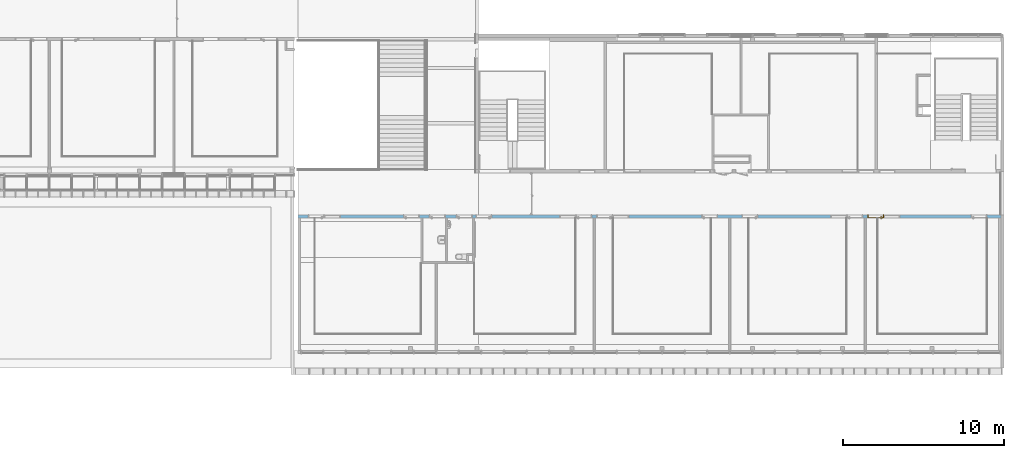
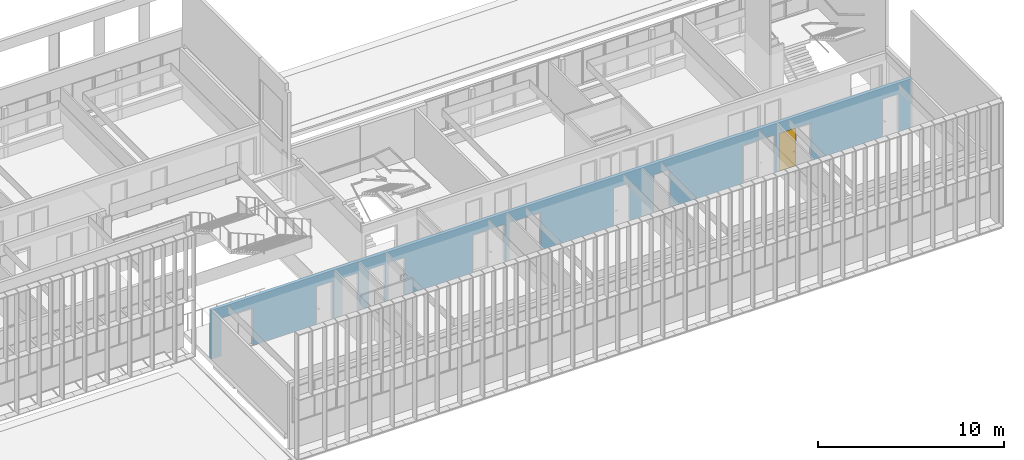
# One storey, part 67 of 106: 1 door, 18 openings, plus 1 element that does not belong to this part.
"""IFC2X3 building model written with IfcOpenShell, lengths in centimetres."""

from ifc_helpers import new_model, entity, si_unit, converted_unit, derived_unit, direction, frame, frame_2d, origin, place, context, subcontext, project, spatial, polyline, rectangle, extrude, clip, bounded_halfspace, faceted_brep, source, transform, mapped, material, material_list, layer, layer_set, layer_usage, type_object, type_shapes, element, fill, save


model = new_model("IFC2X3")

# Units and contexts
model_context = context("Model", 3, precision=0.001, world=origin(), true_north=direction((6.12303176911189e-17, 1.0)))
body_context = subcontext(model_context, "Body", "Model", "MODEL_VIEW")
ifc_project = project(units=[si_unit("LENGTHUNIT", "METRE", prefix="CENTI"), si_unit("AREAUNIT", "SQUARE_METRE"), si_unit("VOLUMEUNIT", "CUBIC_METRE"), converted_unit("PLANEANGLEUNIT", "DEGREE", entity("IfcRatioMeasure", 0.0174532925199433), si_unit("PLANEANGLEUNIT", "RADIAN"), dimensions=[0, 0, 0, 0, 0, 0, 0]), si_unit("MASSUNIT", "GRAM", prefix="KILO"), derived_unit("MASSDENSITYUNIT", [(si_unit("MASSUNIT", "GRAM", prefix="KILO"), 1), (si_unit("LENGTHUNIT", "METRE"), -3)]), si_unit("TIMEUNIT", "SECOND"), si_unit("FREQUENCYUNIT", "HERTZ"), si_unit("THERMODYNAMICTEMPERATUREUNIT", "DEGREE_CELSIUS"), derived_unit("THERMALTRANSMITTANCEUNIT", [(si_unit("MASSUNIT", "GRAM", prefix="KILO"), 1), (si_unit("THERMODYNAMICTEMPERATUREUNIT", "KELVIN"), -1), (si_unit("TIMEUNIT", "SECOND"), -3)]), derived_unit("VOLUMETRICFLOWRATEUNIT", [(si_unit("LENGTHUNIT", "METRE"), 3), (si_unit("TIMEUNIT", "SECOND"), -1)]), si_unit("ELECTRICCURRENTUNIT", "AMPERE"), si_unit("ELECTRICVOLTAGEUNIT", "VOLT"), si_unit("POWERUNIT", "WATT"), si_unit("FORCEUNIT", "NEWTON", prefix="KILO"), si_unit("ILLUMINANCEUNIT", "LUX"), si_unit("LUMINOUSFLUXUNIT", "LUMEN"), si_unit("LUMINOUSINTENSITYUNIT", "CANDELA"), derived_unit("USERDEFINED", [(si_unit("MASSUNIT", "GRAM", prefix="KILO"), -1), (si_unit("LENGTHUNIT", "METRE"), -2), (si_unit("TIMEUNIT", "SECOND"), 3), (si_unit("LUMINOUSFLUXUNIT", "LUMEN"), 1)]), derived_unit("LINEARVELOCITYUNIT", [(si_unit("LENGTHUNIT", "METRE"), 1), (si_unit("TIMEUNIT", "SECOND"), -1)]), si_unit("PRESSUREUNIT", "PASCAL"), derived_unit("USERDEFINED", [(si_unit("LENGTHUNIT", "METRE"), -2), (si_unit("MASSUNIT", "GRAM", prefix="KILO"), 1), (si_unit("TIMEUNIT", "SECOND"), -2)])], contexts=[model_context])

# Site, building, storey
site_placement = place(None, frame((-2781.94577612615, 7442.24238424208, 0.0)))
site = spatial("IfcSite", under=ifc_project, at=site_placement, Name="Default", CompositionType="ELEMENT")
building_placement = place(site_placement, origin())
building = spatial("IfcBuilding", under=site, at=building_placement, CompositionType="ELEMENT")
storey_placement = place(building_placement, frame((0.0, 0.0, 422.0)))
storey = spatial("IfcBuildingStorey", under=building, at=storey_placement, Name="Toiture - Cuisine", CompositionType="ELEMENT", Elevation=421.999999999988)

# Wall, openings, door
ifc_material_1 = material(Name="01 - Maçonnerie")
ifc_layer = layer(ifc_material_1, 20.0)
ifc_layer_set = layer_set([ifc_layer], Name="Mur de base:04 - Structure - béton - 20cm")
ifc_layer_usage = layer_usage(ifc_layer_set, "AXIS2", "NEGATIVE", 10.0)
wall_type = type_object("IfcWallType", Name="Mur de base:04 - Structure - béton - 20cm", PredefinedType="STANDARD", material=ifc_layer_set)
wall_placement = place(building_placement, frame((-4767.99987760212, -2200.15656731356, 422.0)))
wall = element("IfcWallStandardCase", 1, at=wall_placement, inside=storey, type_object=wall_type, material=ifc_layer_usage, Name="Mur de base:04 - Structure - béton - 20cm", ObjectType="Mur de base:04 - Structure - béton - 20cm", context=body_context, shape_type="Clipping", body=[
    clip(extrude(rectangle(XDim=4357.99999476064, YDim=19.9999999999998, at=frame_2d((2178.99999738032, -6.30606677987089e-14), x_axis=(-1.0, 0.0))), origin(), (0.0, 0.0, 1.0), 321.0), bounded_halfspace(frame((0.0, 10.0, 321.0), z_axis=(0.0, 0.0, -1.0), x_axis=(0.0, 1.0, 0.0)), True, frame((0.0, 10.0, 321.0)), polyline([(0.0, 0.0), (0.0, -20.0), (15.2999999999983, -20.0), (103.799999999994, -20.0), (105.799999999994, -20.0), (763.799999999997, -20.0), (773.799999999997, -20.0), (915.699994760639, -20.0), (925.699994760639, -20.0), (1082.69999476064, -20.0), (1092.69999476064, -20.0), (1720.69999476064, -20.0), (1722.69999476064, -20.0), (1832.69999476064, -20.0), (1842.69999476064, -20.0), (1952.69999476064, -20.0), (1954.69999476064, -20.0), (2560.69999476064, -20.0), (2562.69999476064, -20.0), (2672.69999476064, -20.0), (2682.69999476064, -20.0), (2792.69999476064, -20.0), (2794.69999476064, -20.0), (3400.69999476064, -20.0), (3402.69999476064, -20.0), (3512.69999476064, -20.0), (3522.69999476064, -20.0), (3592.69999476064, -20.0), (3594.69999476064, -20.0), (4270.69999476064, -20.0), (4272.69999476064, -20.0), (4342.69999476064, -20.0), (4358.0, -20.0), (4358.0, 0.0), (4356.0, 0.0), (1451.49999791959, 0.0), (1441.49999791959, 0.0), (1120.0, 0.0), (0.0, 0.0)]))),
])
opening_1_placement = place(wall_placement, origin())
element("IfcOpeningElement", 2, at=opening_1_placement, cuts=wall, Name="Mur de base:04 - Structure - béton - 20cm", ObjectType="Opening", context=body_context, shape_type="SweptSolid", body=[
    extrude(rectangle(XDim=270.0, YDim=20.0, at=frame_2d((0.0, 4.2632564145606e-14), x_axis=(0.0, 1.0))), frame((4368.0, 10.0, 135.0), z_axis=(0.0, 1.0, 0.0), x_axis=(1.0, 0.0, 0.0)), (0.0, 0.0, 1.0), 260.077533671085),
])
opening_2_placement = place(wall_placement, frame((4272.69999476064, 10.0, 0.0)))
element("IfcOpeningElement", 3, at=opening_2_placement, cuts=wall, Name="Int. Simple:PV (0.93m x 2.50m):1", ObjectType="Opening", context=body_context, shape_type="SweptSolid", body=[
    extrude(rectangle(XDim=248.500000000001, YDim=99.9999999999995, at=frame_2d((124.250000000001, 50.0), x_axis=(1.0, 0.0))), frame((0.0, 0.0, 0.0), z_axis=(0.0, -1.0, 0.0), x_axis=(0.0, 0.0, 1.0)), (0.0, 0.0, 1.0), 20.0),
])
opening_3_placement = place(wall_placement, frame((3632.69999476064, 10.0, 0.0)))
opening_3 = element("IfcOpeningElement", 4, at=opening_3_placement, cuts=wall, Name="Int. Simple:PV (0.93m x 2.50m):1", ObjectType="Opening", context=body_context, shape_type="SweptSolid", body=[
    extrude(rectangle(XDim=248.500000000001, YDim=99.9999999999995, at=frame_2d((124.250000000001, 49.9999999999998), x_axis=(1.0, 0.0))), frame((0.0, 0.0, 0.0), z_axis=(0.0, -1.0, 0.0), x_axis=(0.0, 0.0, 1.0)), (0.0, 0.0, 1.0), 20.0),
])
opening_4_placement = place(wall_placement, frame((3502.69999476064, 10.0, 0.0)))
element("IfcOpeningElement", 5, at=opening_4_placement, cuts=wall, Name="Int. Simple:PV (0.93m x 2.50m):1", ObjectType="Opening", context=body_context, shape_type="SweptSolid", body=[
    extrude(rectangle(XDim=248.500000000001, YDim=99.9999999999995, at=frame_2d((124.250000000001, 49.9999999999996), x_axis=(1.0, 0.0))), frame((0.0, 0.0, 0.0), z_axis=(0.0, -1.0, 0.0), x_axis=(0.0, 0.0, 1.0)), (0.0, 0.0, 1.0), 20.0),
])
opening_5_placement = place(wall_placement, frame((2852.69999476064, 10.0, 0.0)))
element("IfcOpeningElement", 6, at=opening_5_placement, cuts=wall, Name="Int. Simple:PV (0.93m x 2.50m):1", ObjectType="Opening", context=body_context, shape_type="SweptSolid", body=[
    extrude(rectangle(XDim=248.500000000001, YDim=99.9999999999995, at=frame_2d((124.250000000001, 49.9999999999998), x_axis=(1.0, 0.0))), frame((0.0, 0.0, 0.0), z_axis=(0.0, -1.0, 0.0), x_axis=(0.0, 0.0, 1.0)), (0.0, 0.0, 1.0), 20.0),
])
opening_6_placement = place(wall_placement, frame((2602.69999476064, 10.0, 0.0)))
element("IfcOpeningElement", 7, at=opening_6_placement, cuts=wall, Name="Int. Simple:PV (0.93m x 2.50m):1", ObjectType="Opening", context=body_context, shape_type="SweptSolid", body=[
    extrude(rectangle(XDim=248.500000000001, YDim=99.9999999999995, at=frame_2d((124.250000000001, 49.9999999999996), x_axis=(1.0, 0.0))), frame((0.0, 0.0, 0.0), z_axis=(0.0, -1.0, 0.0), x_axis=(0.0, 0.0, 1.0)), (0.0, 0.0, 1.0), 20.0),
])
opening_7_placement = place(wall_placement, frame((1952.69999476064, 10.0, 0.0)))
element("IfcOpeningElement", 8, at=opening_7_placement, cuts=wall, Name="Int. Simple:PV (0.93m x 2.50m):1", ObjectType="Opening", context=body_context, shape_type="SweptSolid", body=[
    extrude(rectangle(XDim=248.500000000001, YDim=99.9999999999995, at=frame_2d((124.250000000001, 49.9999999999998), x_axis=(1.0, 0.0))), frame((0.0, 0.0, 0.0), z_axis=(0.0, -1.0, 0.0), x_axis=(0.0, 0.0, 1.0)), (0.0, 0.0, 1.0), 20.0),
])
opening_8_placement = place(wall_placement, frame((1822.69999476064, 10.0, 0.0)))
element("IfcOpeningElement", 9, at=opening_8_placement, cuts=wall, Name="Int. Simple:PV (0.93m x 2.50m):1", ObjectType="Opening", context=body_context, shape_type="SweptSolid", body=[
    extrude(rectangle(XDim=248.500000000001, YDim=99.9999999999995, at=frame_2d((124.250000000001, 49.9999999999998), x_axis=(1.0, 0.0))), frame((0.0, 0.0, 0.0), z_axis=(0.0, -1.0, 0.0), x_axis=(0.0, 0.0, 1.0)), (0.0, 0.0, 1.0), 20.0),
])
opening_9_placement = place(wall_placement, frame((1202.69999476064, 10.0, 0.0)))
element("IfcOpeningElement", 10, at=opening_9_placement, cuts=wall, Name="Int. Simple:PV (0.93m x 2.50m):1", ObjectType="Opening", context=body_context, shape_type="SweptSolid", body=[
    extrude(rectangle(XDim=248.500000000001, YDim=99.9999999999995, at=frame_2d((124.250000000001, 49.9999999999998), x_axis=(1.0, 0.0))), frame((0.0, 0.0, 0.0), z_axis=(0.0, -1.0, 0.0), x_axis=(0.0, 0.0, 1.0)), (0.0, 0.0, 1.0), 20.0),
])
opening_10_placement = place(wall_placement, frame((1081.19999476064, 10.0, 0.0)))
element("IfcOpeningElement", 11, at=opening_10_placement, cuts=wall, Name="Int. Simple:PP simple (0.93m x 2.50m):1", ObjectType="Opening", context=body_context, shape_type="SweptSolid", body=[
    extrude(rectangle(XDim=248.500000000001, YDim=99.9999999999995, at=frame_2d((124.250000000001, 49.9999999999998), x_axis=(1.0, 0.0))), frame((0.0, 0.0, 0.0), z_axis=(0.0, -1.0, 0.0), x_axis=(0.0, 0.0, 1.0)), (0.0, 0.0, 1.0), 20.0),
])
opening_11_placement = place(wall_placement, frame((753.799999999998, 10.0, 0.0)))
element("IfcOpeningElement", 12, at=opening_11_placement, cuts=wall, Name="Int. Simple:PV (0.93m x 2.50m):1", ObjectType="Opening", context=body_context, shape_type="SweptSolid", body=[
    extrude(rectangle(XDim=248.500000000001, YDim=99.9999999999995, at=frame_2d((124.250000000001, 50.0), x_axis=(1.0, 0.0))), frame((0.0, 0.0, 0.0), z_axis=(0.0, -1.0, 0.0), x_axis=(0.0, 0.0, 1.0)), (0.0, 0.0, 1.0), 20.0),
])
opening_12_placement = place(wall_placement, frame((163.799999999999, 10.0, 0.0)))
element("IfcOpeningElement", 13, at=opening_12_placement, cuts=wall, Name="Int. Simple:PV (0.93m x 2.50m):1", ObjectType="Opening", context=body_context, shape_type="SweptSolid", body=[
    extrude(rectangle(XDim=248.500000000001, YDim=99.9999999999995, at=frame_2d((124.250000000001, 49.9999999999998), x_axis=(1.0, 0.0))), frame((0.0, 0.0, 0.0), z_axis=(0.0, -1.0, 0.0), x_axis=(0.0, 0.0, 1.0)), (0.0, 0.0, 1.0), 20.0),
])
opening_13_placement = place(wall_placement, frame((263.799999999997, 10.0, 0.0)))
element("IfcOpeningElement", 14, at=opening_13_placement, cuts=wall, Name="châssis intérieur vitré:châssis intérieur vitré (h=270) R+1:1", ObjectType="Opening", context=body_context, shape_type="SweptSolid", body=[
    extrude(rectangle(XDim=250.0, YDim=99.9999999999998, at=frame_2d((125.0, 49.9999999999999), x_axis=(1.0, 0.0))), frame((0.0, 0.0, 0.0), z_axis=(0.0, -1.0, 0.0), x_axis=(0.0, 0.0, 1.0)), (0.0, 0.0, 1.0), 20.0),
])
opening_14_placement = place(wall_placement, frame((1722.69999476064, 10.0, 0.0)))
element("IfcOpeningElement", 15, at=opening_14_placement, cuts=wall, Name="châssis intérieur vitré:châssis intérieur vitré (h=270) R+1:1", ObjectType="Opening", context=body_context, shape_type="SweptSolid", body=[
    extrude(rectangle(XDim=250.0, YDim=99.9999999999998, at=frame_2d((125.0, 49.9999999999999), x_axis=(1.0, 0.0))), frame((0.0, 0.0, 0.0), z_axis=(0.0, -1.0, 0.0), x_axis=(0.0, 0.0, 1.0)), (0.0, 0.0, 1.0), 20.0),
])
opening_15_placement = place(wall_placement, frame((2052.69999476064, 10.0, 0.0)))
element("IfcOpeningElement", 16, at=opening_15_placement, cuts=wall, Name="châssis intérieur vitré:châssis intérieur vitré (h=270) R+1:1", ObjectType="Opening", context=body_context, shape_type="SweptSolid", body=[
    extrude(rectangle(XDim=250.0, YDim=99.9999999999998, at=frame_2d((125.0, 49.9999999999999), x_axis=(1.0, 0.0))), frame((0.0, 0.0, 0.0), z_axis=(0.0, -1.0, 0.0), x_axis=(0.0, 0.0, 1.0)), (0.0, 0.0, 1.0), 20.0),
])
opening_16_placement = place(wall_placement, frame((3402.69999476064, 10.0, 0.0)))
element("IfcOpeningElement", 17, at=opening_16_placement, cuts=wall, Name="châssis intérieur vitré:châssis intérieur vitré (h=270) R+1:1", ObjectType="Opening", context=body_context, shape_type="SweptSolid", body=[
    extrude(rectangle(XDim=250.0, YDim=99.9999999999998, at=frame_2d((125.0, 49.9999999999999), x_axis=(1.0, 0.0))), frame((0.0, 0.0, 0.0), z_axis=(0.0, -1.0, 0.0), x_axis=(0.0, 0.0, 1.0)), (0.0, 0.0, 1.0), 20.0),
])
opening_17_placement = place(wall_placement, frame((3732.69999476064, 10.0, 0.0)))
element("IfcOpeningElement", 18, at=opening_17_placement, cuts=wall, Name="châssis intérieur vitré:châssis intérieur vitré (h=270) R+1:1", ObjectType="Opening", context=body_context, shape_type="SweptSolid", body=[
    extrude(rectangle(XDim=250.0, YDim=99.9999999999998, at=frame_2d((125.0, 49.9999999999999), x_axis=(1.0, 0.0))), frame((0.0, 0.0, 0.0), z_axis=(0.0, -1.0, 0.0), x_axis=(0.0, 0.0, 1.0)), (0.0, 0.0, 1.0), 20.0),
])
opening_18_placement = place(wall_placement, frame((914.199994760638, 10.0, 0.0)))
element("IfcOpeningElement", 19, at=opening_18_placement, cuts=wall, Name="Int. Simple:PP simple (0.93m x 2.50m):1", ObjectType="Opening", context=body_context, shape_type="SweptSolid", body=[
    extrude(rectangle(XDim=248.500000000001, YDim=99.9999999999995, at=frame_2d((124.250000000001, 50.0), x_axis=(1.0, 0.0))), frame((0.0, 0.0, 0.0), z_axis=(0.0, -1.0, 0.0), x_axis=(0.0, 0.0, 1.0)), (0.0, 0.0, 1.0), 20.0),
])
ifc_material_2 = material(Name="Finition Peinture - Blanc satiné")
ifc_material_3 = material(Name="Bois - Panneau de porte")
ifc_material_4 = material(Name="Bois - Cadre de porte")
ifc_material_list_1 = material_list([ifc_material_2, ifc_material_3, ifc_material_4])
ifc_material_list_2 = material_list([ifc_material_2, ifc_material_3, ifc_material_4])
door_style = type_object("IfcDoorStyle", Name="PV (0.93m x 2.50m)", ConstructionType="NOTDEFINED", OperationType="SINGLE_SWING_RIGHT", ParameterTakesPrecedence=False, Sizeable=False, material=ifc_material_list_2)
shared_shape = source(origin(), body_context, "Body", "Brep", [
    faceted_brep([(99.5000000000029, -0.500000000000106, 87.0), (99.5000000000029, -0.500000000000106, 108.0), (98.535276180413, -0.500000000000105, 108.399601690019), (97.5000000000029, -0.500000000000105, 108.535898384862), (96.4647238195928, -0.500000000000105, 108.399601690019), (95.500000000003, -0.500000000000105, 108.0), (95.5000000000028, -0.500000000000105, 87.0), (96.4647238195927, -0.500000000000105, 86.6003983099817), (97.5000000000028, -0.500000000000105, 86.464101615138), (98.5352761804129, -0.500000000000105, 86.6003983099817), (99.5000000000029, 0.0, 108.0), (99.5000000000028, 0.0, 87.0), (98.5352761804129, 0.0, 86.6003983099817), (97.5000000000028, 0.0, 86.464101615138), (96.4647238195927, 0.0, 86.6003983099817), (95.5000000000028, 0.0, 87.0), (95.5000000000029, 0.0, 108.0), (96.4647238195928, 0.0, 108.399601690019), (97.5000000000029, 0.0, 108.535898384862), (98.535276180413, 0.0, 108.399601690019)], [[[0, 1, 2, 3, 4, 5, 6, 7, 8, 9]], [[10, 11, 12, 13, 14, 15, 16, 17, 18, 19]], [[9, 12, 11, 0]], [[8, 13, 12, 9]], [[7, 14, 13, 8]], [[7, 6, 15, 14]], [[15, 6, 5, 16]], [[4, 17, 16, 5]], [[3, 18, 17, 4]], [[2, 19, 18, 3]], [[2, 1, 10, 19]], [[11, 10, 1, 0]]]),
    faceted_brep([(99.5000000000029, 4.0, 87.0), (99.5000000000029, 4.0, 108.0), (98.535276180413, 4.0, 108.399601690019), (97.5000000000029, 4.0, 108.535898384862), (96.4647238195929, 4.0, 108.399601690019), (95.500000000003, 4.0, 108.0), (95.5000000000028, 4.0, 87.0), (96.4647238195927, 4.0, 86.6003983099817), (97.5000000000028, 4.0, 86.464101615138), (98.5352761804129, 4.0, 86.6003983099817), (97.5000000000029, 4.49999999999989, 108.535898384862), (98.535276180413, 4.49999999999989, 108.399601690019), (99.5000000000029, 4.49999999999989, 108.0), (99.5000000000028, 4.49999999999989, 87.0), (98.5352761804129, 4.49999999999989, 86.6003983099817), (97.5000000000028, 4.49999999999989, 86.464101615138), (96.4647238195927, 4.49999999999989, 86.6003983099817), (95.5000000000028, 4.49999999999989, 87.0), (95.500000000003, 4.49999999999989, 108.0), (96.4647238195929, 4.49999999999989, 108.399601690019)], [[[0, 1, 2, 3, 4, 5, 6, 7, 8, 9]], [[10, 11, 12, 13, 14, 15, 16, 17, 18, 19]], [[4, 19, 18, 5]], [[3, 10, 19, 4]], [[2, 11, 10, 3]], [[2, 1, 12, 11]], [[13, 12, 1, 0]], [[9, 14, 13, 0]], [[8, 15, 14, 9]], [[7, 16, 15, 8]], [[7, 6, 17, 16]], [[17, 6, 5, 18]]]),
    faceted_brep([(97.2974701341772, -0.500000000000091, 100.778044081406), (97.7025298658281, -0.500000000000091, 100.778044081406), (98.1000000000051, -0.500000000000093, 100.699999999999), (98.100000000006, -0.500000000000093, 99.2999999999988), (97.7025298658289, -0.500000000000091, 99.221955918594), (97.297470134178, -0.500000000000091, 99.2219559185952), (96.9000000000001, -0.500000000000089, 99.3000000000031), (96.9000000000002, -0.500000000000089, 100.7), (97.7025298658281, -3.10045754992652, 100.778044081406), (98.1000000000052, -3.26509507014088, 100.7), (97.2974701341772, -2.93267631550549, 100.778044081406), (95.9298602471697, -4.30028620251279, 100.778044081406), (96.0976414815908, -4.70534593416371, 100.778044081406), (96.9000000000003, -2.76803879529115, 100.7), (96.9000000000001, -2.76803879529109, 99.3000000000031), (97.297470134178, -2.93267631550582, 99.2219559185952), (97.7025298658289, -3.10045754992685, 99.221955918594), (96.0976414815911, -4.70534593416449, 99.221955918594), (95.9298602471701, -4.30028620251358, 99.2219559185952), (98.100000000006, -3.26509507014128, 99.2999999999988), (96.2622790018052, -5.1028160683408, 100.7), (95.7652227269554, -3.90281606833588, 100.7), (95.7652227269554, -3.90281606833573, 99.3000000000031), (96.2622790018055, -5.10281606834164, 99.2999999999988), (87.4981359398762, -5.10281606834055, 100.7), (87.4981359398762, -4.70534593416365, 100.778044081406), (87.4981359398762, -4.30028620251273, 100.778044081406), (87.4981359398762, -3.90281606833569, 100.699999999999), (87.4981359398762, -3.90281606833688, 99.3000000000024), (87.4981359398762, -4.30028620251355, 99.2219559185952), (87.4981359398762, -4.70534593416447, 99.221955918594), (87.4981359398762, -5.10281606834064, 99.2999999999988), (91.7139980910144, -4.5028160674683, 100.78786867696), (92.2692302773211, -5.1028160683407, 100.7), (91.6316793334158, -3.9028160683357, 100.7), (91.631679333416, -3.90281606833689, 99.3000000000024), (91.7139981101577, -4.50281607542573, 99.2121313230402), (92.2692310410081, -5.10281606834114, 99.2999999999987)], [[[0, 1, 2, 3, 4, 5, 6, 7]], [[2, 1, 8, 9]], [[1, 0, 10, 11, 12, 8]], [[0, 7, 13, 10]], [[14, 13, 7, 6]], [[5, 15, 14, 6]], [[5, 4, 16, 17, 18, 15]], [[3, 19, 16, 4]], [[9, 19, 3, 2]], [[9, 8, 12, 20]], [[10, 13, 21, 11]], [[22, 21, 13, 14]], [[14, 15, 18, 22]], [[16, 19, 23, 17]], [[20, 23, 19, 9]], [[24, 25, 26, 27, 28, 29, 30, 31]], [[32, 25, 33]], [[33, 25, 24]], [[33, 20, 12]], [[11, 34, 32]], [[34, 11, 21]], [[27, 26, 34]], [[32, 26, 25]], [[32, 34, 26]], [[32, 33, 12]], [[11, 32, 12]], [[21, 22, 35, 28, 27, 34]], [[36, 29, 35]], [[30, 36, 37]], [[18, 35, 22]], [[29, 28, 35]], [[30, 37, 31]], [[37, 17, 23]], [[36, 17, 37]], [[36, 18, 17]], [[36, 35, 18]], [[29, 36, 30]], [[23, 20, 33, 24, 31, 37]]]),
    faceted_brep([(97.2974701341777, 4.49999999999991, 99.2219559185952), (97.7025298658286, 4.49999999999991, 99.221955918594), (98.1000000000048, 4.4999999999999, 99.2999999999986), (98.1000000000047, 4.4999999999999, 100.7), (97.7025298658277, 4.49999999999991, 100.778044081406), (97.2974701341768, 4.49999999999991, 100.778044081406), (96.8999999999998, 4.49999999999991, 100.7), (96.900000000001, 4.49999999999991, 99.3000000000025), (96.8999999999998, 6.7485204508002, 100.7), (96.8999999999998, 6.74852045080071, 99.3000000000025), (97.2974701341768, 6.91315797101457, 100.778044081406), (97.7025298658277, 7.0809392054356, 100.778044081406), (96.0838906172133, 8.69957845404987, 100.778044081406), (95.9161093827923, 8.29451872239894, 100.778044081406), (98.1000000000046, 7.24557672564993, 100.7), (98.1000000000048, 7.24557672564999, 99.2999999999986), (97.7025298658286, 7.08093920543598, 99.221955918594), (97.2974701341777, 6.91315797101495, 99.2219559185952), (95.9161093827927, 8.29451872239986, 99.2219559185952), (96.0838906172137, 8.69957845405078, 99.221955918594), (95.751471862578, 7.89704858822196, 100.7), (95.7514718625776, 7.89704858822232, 99.3000000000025), (96.2485281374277, 9.09704858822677, 100.7), (96.2485281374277, 9.09704858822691, 99.2999999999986), (87.4954216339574, 8.29451872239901, 100.778044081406), (87.4954216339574, 8.69957845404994, 100.778044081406), (87.4954216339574, 9.09704858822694, 100.7), (87.4954216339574, 9.09704858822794, 99.2999999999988), (87.4954216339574, 8.6995784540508, 99.221955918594), (87.4954216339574, 8.29451872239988, 99.2219559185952), (87.4954216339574, 7.89704858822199, 99.3000000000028), (87.4954216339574, 7.89704858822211, 100.7), (91.6234467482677, 7.89704858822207, 100.7), (91.6234479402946, 7.89704858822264, 99.3000000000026), (91.7057655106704, 8.49704858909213, 100.78786867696), (92.255479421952, 9.09704858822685, 100.7), (92.2554795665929, 9.09704858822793, 99.2999999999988), (91.7057654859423, 8.49704858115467, 99.2121313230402)], [[[0, 1, 2, 3, 4, 5, 6, 7]], [[8, 9, 7, 6]], [[5, 10, 8, 6]], [[5, 4, 11, 12, 13, 10]], [[3, 14, 11, 4]], [[14, 3, 2, 15]], [[2, 1, 16, 15]], [[1, 0, 17, 18, 19, 16]], [[0, 7, 9, 17]], [[20, 21, 9, 8]], [[8, 10, 13, 20]], [[14, 22, 12, 11]], [[23, 22, 14, 15]], [[15, 16, 19, 23]], [[17, 9, 21, 18]], [[24, 25, 26, 27, 28, 29, 30, 31]], [[21, 20, 32, 31, 30, 33]], [[34, 24, 32]], [[25, 34, 35]], [[13, 32, 20]], [[24, 31, 32]], [[25, 35, 26]], [[35, 12, 22]], [[34, 12, 35]], [[34, 13, 12]], [[34, 32, 13]], [[24, 34, 25]], [[22, 23, 36, 27, 26, 35]], [[37, 28, 36]], [[36, 28, 27]], [[36, 23, 19]], [[18, 33, 37]], [[33, 18, 21]], [[30, 29, 33]], [[37, 29, 28]], [[37, 33, 29]], [[37, 36, 19]], [[18, 37, 19]]]),
    faceted_brep([(103.500000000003, 4.0, 245.0), (103.500000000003, 4.0, 0.0), (10.5000000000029, 4.0, 0.0), (10.5000000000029, 4.0, 245.0), (103.500000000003, 0.0, 245.0), (10.5000000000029, 0.0, 245.0), (10.5000000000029, 0.0, 0.0), (103.500000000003, 0.0, 0.0)], [[[0, 1, 2, 3]], [[4, 5, 6, 7]], [[3, 5, 4, 0]], [[2, 6, 5, 3]], [[1, 7, 6, 2]], [[0, 4, 7, 1]]]),
    faceted_brep([(107.0, 20.0, 0.0), (107.0, 0.0, 0.0), (108.500000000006, 0.0, 0.0), (108.500000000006, -0.500000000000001, 0.0), (103.500000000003, -0.500000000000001, 0.0), (103.500000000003, 4.0, 0.0), (102.0, 4.0, 0.0), (102.0, 20.5000000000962, 0.0), (108.500000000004, 20.5000000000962, 0.0), (108.500000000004, 20.0, 0.0), (108.500000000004, 20.0, 250.0), (5.50000000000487, 20.0, 250.0), (5.50000000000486, 20.0, 0.0), (7.0, 20.0, 0.0), (7.0, 20.0, 248.500000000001), (107.0, 20.0, 248.500000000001), (108.500000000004, 20.5000000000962, 250.0), (102.0, 20.5000000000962, 243.5), (12.0, 20.5000000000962, 243.5), (12.0, 20.5000000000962, 0.0), (5.50000000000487, 20.5000000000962, 0.0), (5.50000000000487, 20.5000000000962, 250.0), (102.0, 4.0, 243.5), (103.500000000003, 4.0, 245.0), (10.5000000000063, 4.0, 245.0), (10.5000000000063, 4.0, 0.0), (12.0, 4.0, 0.0), (12.0, 4.0, 243.5), (103.500000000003, -0.500000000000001, 245.0), (108.500000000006, -0.500000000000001, 250.0), (5.5000000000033, -0.500000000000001, 250.0), (5.50000000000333, -0.500000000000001, 0.0), (10.5000000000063, -0.500000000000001, 0.0), (10.5000000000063, -0.500000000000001, 245.0), (108.500000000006, 0.0, 250.0), (107.0, 0.0, 248.500000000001), (7.0, 0.0, 248.500000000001), (7.0, 0.0, 0.0), (5.5000000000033, 0.0, 0.0), (5.50000000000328, 0.0, 250.0)], [[[0, 1, 2, 3, 4, 5, 6, 7, 8, 9]], [[9, 10, 11, 12, 13, 14, 15, 0]], [[8, 16, 10, 9]], [[7, 17, 18, 19, 20, 21, 16, 8]], [[7, 6, 22, 17]], [[5, 23, 24, 25, 26, 27, 22, 6]], [[5, 4, 28, 23]], [[3, 29, 30, 31, 32, 33, 28, 4]], [[2, 34, 29, 3]], [[1, 35, 36, 37, 38, 39, 34, 2]], [[0, 15, 35, 1]], [[14, 13, 37, 36]], [[13, 12, 20, 19, 26, 25, 32, 31, 38, 37]], [[21, 20, 12, 11]], [[27, 26, 19, 18]], [[33, 32, 25, 24]], [[39, 38, 31, 30]], [[16, 21, 11, 10]], [[22, 27, 18, 17]], [[28, 33, 24, 23]], [[34, 39, 30, 29]], [[15, 14, 36, 35]]]),
])
type_shapes(door_style, [shared_shape])
door_placement = place(opening_3_placement, frame((-107.0, -20.0, 0.0)))
door = element("IfcDoor", 20, at=door_placement, inside=storey, type_object=door_style, material=ifc_material_list_1, Name="Int. Simple:PV (0.93m x 2.50m)", ObjectType="Int. Simple:PV (0.93m x 2.50m)", OverallHeight=248.500000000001, OverallWidth=99.9999999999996, context=body_context, shape_type="MappedRepresentation", body=[
    mapped(shared_shape, transform((0.0, 0.0, 0.0), scale=1.0)),
])
fill(opening_3, door)

save(model, "model.ifc")
